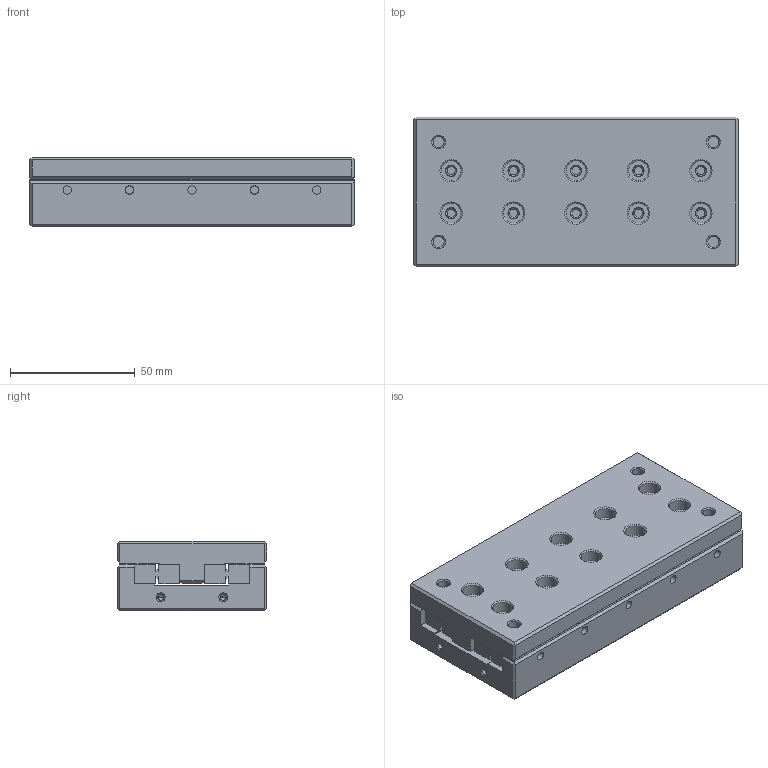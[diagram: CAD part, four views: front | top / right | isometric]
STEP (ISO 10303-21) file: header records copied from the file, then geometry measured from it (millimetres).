
FILE_DESCRIPTION(/* description */ (''),/* implementation_level */ '2;1');
FILE_NAME(/* name */ 'cru3130_stp.stp',/* time_stamp */ '2017-02-28T08:45:44+08:00',/* author */ (''),/* organization */ (''),/* preprocessor_version */ 'ST-DEVELOPER v15',/* originating_system */ 'SIEMENS PLM Software NX 8.5',/* authorisation */ '');
FILE_SCHEMA (('AUTOMOTIVE_DESIGN { 1 0 10303 214 3 1 1 1 }'));
Length unit declared in the file: millimetre
Products named in the file (4): CRU3130-02; CRU3130--GV3125; CRU3130-01; cru3130_stp
Assembly tree (4 placements, depth 2):
  cru3130_stp
    CRU3130-01
    CRU3130--GV3125  x2
    CRU3130-02
Bounding box: 130 x 60 x 28 mm (x, y, z)
Volume: 195012.7 mm3; surface area: 68992.2 mm2
Topology: 4 solids, 4 shells, 566 faces, 1316 edges, 798 vertices
Faces by surface type: cylinder 218, cone 214, plane 134
Entity records: 13486 total; most frequent: CARTESIAN_POINT 2611, DIRECTION 2370, ORIENTED_EDGE 2128, EDGE_CURVE 1064, AXIS2_PLACEMENT_3D 985, VERTEX_POINT 650, EDGE_LOOP 598, CIRCLE 520
